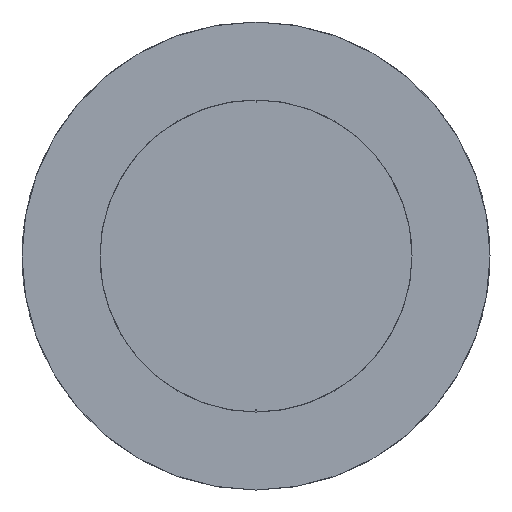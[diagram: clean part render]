
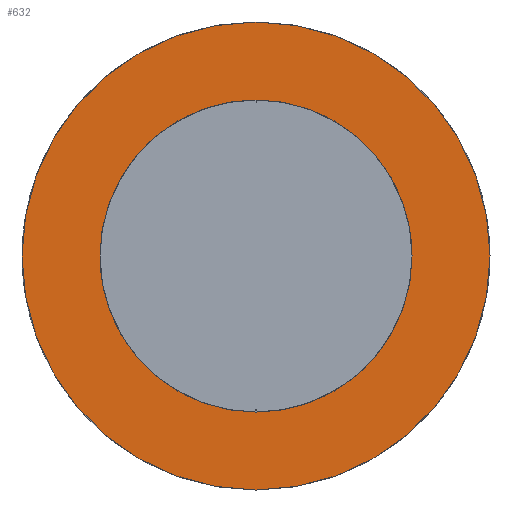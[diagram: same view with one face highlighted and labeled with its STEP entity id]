
A CAD part, left-side view. The second image highlights one B-rep face of the part: STEP entity #632.
In plain terms, the highlighted planar face has unit normal (-1, 0, 0).
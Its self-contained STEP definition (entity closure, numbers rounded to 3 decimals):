
#196=CARTESIAN_POINT('Vertex',(0.,0.,9.)) ;
#222=CARTESIAN_POINT('Vertex',(0.,0.,-9.)) ;
#225=CARTESIAN_POINT('Axis2P3D Location',(0.,0.,0.)) ;
#229=CARTESIAN_POINT('Vertex',(0.,9.,0.)) ;
#232=CARTESIAN_POINT('Axis2P3D Location',(0.,0.,0.)) ;
#465=CARTESIAN_POINT('Axis2P3D Location',(0.,0.,0.)) ;
#469=CARTESIAN_POINT('Vertex',(0.,-9.,0.)) ;
#472=CARTESIAN_POINT('Axis2P3D Location',(0.,0.,0.)) ;
#539=CARTESIAN_POINT('Axis2P3D Location',(0.,9.,0.)) ;
#551=CARTESIAN_POINT('Control Point',(0.,6.,0.)) ;
#552=CARTESIAN_POINT('Control Point',(0.,6.,0.6)) ;
#553=CARTESIAN_POINT('Control Point',(0.,5.925,1.2)) ;
#554=CARTESIAN_POINT('Control Point',(0.,5.775,1.788)) ;
#555=CARTESIAN_POINT('Control Point',(0.,5.331,2.913)) ;
#556=CARTESIAN_POINT('Control Point',(0.,4.624,3.894)) ;
#557=CARTESIAN_POINT('Control Point',(0.,4.211,4.337)) ;
#558=CARTESIAN_POINT('Control Point',(0.,3.282,5.112)) ;
#559=CARTESIAN_POINT('Control Point',(0.,2.192,5.634)) ;
#560=CARTESIAN_POINT('Control Point',(0.,1.616,5.825)) ;
#561=CARTESIAN_POINT('Control Point',(0.,0.939,5.959)) ;
#562=CARTESIAN_POINT('Control Point',(0.,0.255,5.995)) ;
#563=CARTESIAN_POINT('Control Point',(0.,0.17,5.998)) ;
#564=CARTESIAN_POINT('Control Point',(0.,0.085,6.)) ;
#565=CARTESIAN_POINT('Control Point',(0.,0.,6.)) ;
#566=CARTESIAN_POINT('Vertex',(0.,6.,0.)) ;
#568=CARTESIAN_POINT('Vertex',(0.,0.,6.)) ;
#572=CARTESIAN_POINT('Control Point',(0.,0.,6.)) ;
#573=CARTESIAN_POINT('Control Point',(0.,-0.515,6.)) ;
#574=CARTESIAN_POINT('Control Point',(0.,-1.03,5.945)) ;
#575=CARTESIAN_POINT('Control Point',(0.,-1.537,5.834)) ;
#576=CARTESIAN_POINT('Control Point',(0.,-2.601,5.479)) ;
#577=CARTESIAN_POINT('Control Point',(0.,-3.557,4.888)) ;
#578=CARTESIAN_POINT('Control Point',(0.,-4.029,4.507)) ;
#579=CARTESIAN_POINT('Control Point',(0.,-4.867,3.636)) ;
#580=CARTESIAN_POINT('Control Point',(0.,-5.465,2.585)) ;
#581=CARTESIAN_POINT('Control Point',(0.,-5.696,2.024)) ;
#582=CARTESIAN_POINT('Control Point',(0.,-5.9,1.276)) ;
#583=CARTESIAN_POINT('Control Point',(0.,-5.982,0.51)) ;
#584=CARTESIAN_POINT('Control Point',(0.,-5.994,0.34)) ;
#585=CARTESIAN_POINT('Control Point',(0.,-6.,0.17)) ;
#586=CARTESIAN_POINT('Control Point',(0.,-6.,0.)) ;
#587=CARTESIAN_POINT('Vertex',(0.,-6.,0.)) ;
#591=CARTESIAN_POINT('Control Point',(0.,-6.,0.)) ;
#592=CARTESIAN_POINT('Control Point',(0.,-6.,-0.6)) ;
#593=CARTESIAN_POINT('Control Point',(0.,-5.925,-1.2)) ;
#594=CARTESIAN_POINT('Control Point',(0.,-5.775,-1.788)) ;
#595=CARTESIAN_POINT('Control Point',(0.,-5.331,-2.913)) ;
#596=CARTESIAN_POINT('Control Point',(0.,-4.624,-3.894)) ;
#597=CARTESIAN_POINT('Control Point',(0.,-4.211,-4.337)) ;
#598=CARTESIAN_POINT('Control Point',(0.,-3.282,-5.112)) ;
#599=CARTESIAN_POINT('Control Point',(0.,-2.192,-5.634)) ;
#600=CARTESIAN_POINT('Control Point',(0.,-1.616,-5.825)) ;
#601=CARTESIAN_POINT('Control Point',(0.,-0.939,-5.959)) ;
#602=CARTESIAN_POINT('Control Point',(0.,-0.255,-5.995)) ;
#603=CARTESIAN_POINT('Control Point',(0.,-0.17,-5.998)) ;
#604=CARTESIAN_POINT('Control Point',(0.,-0.085,-6.)) ;
#605=CARTESIAN_POINT('Control Point',(0.,0.,-6.)) ;
#606=CARTESIAN_POINT('Vertex',(0.,0.,-6.)) ;
#610=CARTESIAN_POINT('Control Point',(0.,0.,-6.)) ;
#611=CARTESIAN_POINT('Control Point',(0.,0.515,-6.)) ;
#612=CARTESIAN_POINT('Control Point',(0.,1.03,-5.945)) ;
#613=CARTESIAN_POINT('Control Point',(0.,1.537,-5.834)) ;
#614=CARTESIAN_POINT('Control Point',(0.,2.601,-5.479)) ;
#615=CARTESIAN_POINT('Control Point',(0.,3.557,-4.888)) ;
#616=CARTESIAN_POINT('Control Point',(0.,4.029,-4.507)) ;
#617=CARTESIAN_POINT('Control Point',(0.,4.867,-3.636)) ;
#618=CARTESIAN_POINT('Control Point',(0.,5.465,-2.585)) ;
#619=CARTESIAN_POINT('Control Point',(0.,5.696,-2.024)) ;
#620=CARTESIAN_POINT('Control Point',(0.,5.9,-1.276)) ;
#621=CARTESIAN_POINT('Control Point',(0.,5.982,-0.51)) ;
#622=CARTESIAN_POINT('Control Point',(0.,5.994,-0.34)) ;
#623=CARTESIAN_POINT('Control Point',(0.,6.,-0.17)) ;
#624=CARTESIAN_POINT('Control Point',(0.,6.,0.)) ;
#226=DIRECTION('Axis2P3D Direction',(-1.,-0.,-0.)) ;
#233=DIRECTION('Axis2P3D Direction',(-1.,-0.,-0.)) ;
#466=DIRECTION('Axis2P3D Direction',(-1.,-0.,-0.)) ;
#473=DIRECTION('Axis2P3D Direction',(-1.,-0.,-0.)) ;
#540=DIRECTION('Axis2P3D Direction',(-1.,0.,0.)) ;
#541=DIRECTION('Axis2P3D XDirection',(0.,0.,1.)) ;
#227=AXIS2_PLACEMENT_3D('Circle Axis2P3D',#225,#226,$) ;
#234=AXIS2_PLACEMENT_3D('Circle Axis2P3D',#232,#233,$) ;
#467=AXIS2_PLACEMENT_3D('Circle Axis2P3D',#465,#466,$) ;
#474=AXIS2_PLACEMENT_3D('Circle Axis2P3D',#472,#473,$) ;
#542=AXIS2_PLACEMENT_3D('Plane Axis2P3D',#539,#540,#541) ;
#545=ORIENTED_EDGE('',*,*,#231,.F.) ;
#546=ORIENTED_EDGE('',*,*,#476,.F.) ;
#547=ORIENTED_EDGE('',*,*,#471,.F.) ;
#548=ORIENTED_EDGE('',*,*,#236,.F.) ;
#627=ORIENTED_EDGE('',*,*,#570,.T.) ;
#628=ORIENTED_EDGE('',*,*,#589,.T.) ;
#629=ORIENTED_EDGE('',*,*,#608,.T.) ;
#630=ORIENTED_EDGE('',*,*,#625,.T.) ;
#631=FACE_BOUND('',#626,.T.) ;
#632=ADVANCED_FACE('CF-VPA18',(#549,#631),#543,.T.) ;
#550=B_SPLINE_CURVE_WITH_KNOTS('',5,(#551,#552,#553,#554,#555,#556,#557,#558,#559,#560,#561,#562,#563,#564,#565),.UNSPECIFIED.,.F.,.U.,(6,3,3,3,6),(0.,4.243,8.485,12.728,13.329),.UNSPECIFIED.) ;
#571=B_SPLINE_CURVE_WITH_KNOTS('',5,(#572,#573,#574,#575,#576,#577,#578,#579,#580,#581,#582,#583,#584,#585,#586),.UNSPECIFIED.,.F.,.U.,(6,3,3,3,6),(13.329,16.97,21.213,25.456,26.657),.UNSPECIFIED.) ;
#590=B_SPLINE_CURVE_WITH_KNOTS('',5,(#591,#592,#593,#594,#595,#596,#597,#598,#599,#600,#601,#602,#603,#604,#605),.UNSPECIFIED.,.F.,.U.,(6,3,3,3,6),(0.,4.243,8.485,12.728,13.329),.UNSPECIFIED.) ;
#609=B_SPLINE_CURVE_WITH_KNOTS('',5,(#610,#611,#612,#613,#614,#615,#616,#617,#618,#619,#620,#621,#622,#623,#624),.UNSPECIFIED.,.F.,.U.,(6,3,3,3,6),(13.329,16.97,21.213,25.456,26.657),.UNSPECIFIED.) ;
#228=CIRCLE('generated circle',#227,9.) ;
#235=CIRCLE('generated circle',#234,9.) ;
#468=CIRCLE('generated circle',#467,9.) ;
#475=CIRCLE('generated circle',#474,9.) ;
#231=EDGE_CURVE('',#223,#230,#228,.F.) ;
#236=EDGE_CURVE('',#230,#197,#235,.F.) ;
#471=EDGE_CURVE('',#197,#470,#468,.F.) ;
#476=EDGE_CURVE('',#470,#223,#475,.F.) ;
#570=EDGE_CURVE('',#567,#569,#550,.T.) ;
#589=EDGE_CURVE('',#569,#588,#571,.T.) ;
#608=EDGE_CURVE('',#588,#607,#590,.T.) ;
#625=EDGE_CURVE('',#607,#567,#609,.T.) ;
#544=EDGE_LOOP('',(#545,#546,#547,#548)) ;
#626=EDGE_LOOP('',(#627,#628,#629,#630)) ;
#549=FACE_OUTER_BOUND('',#544,.T.) ;
#543=PLANE('Plane',#542) ;
#197=VERTEX_POINT('',#196) ;
#223=VERTEX_POINT('',#222) ;
#230=VERTEX_POINT('',#229) ;
#470=VERTEX_POINT('',#469) ;
#567=VERTEX_POINT('',#566) ;
#569=VERTEX_POINT('',#568) ;
#588=VERTEX_POINT('',#587) ;
#607=VERTEX_POINT('',#606) ;
